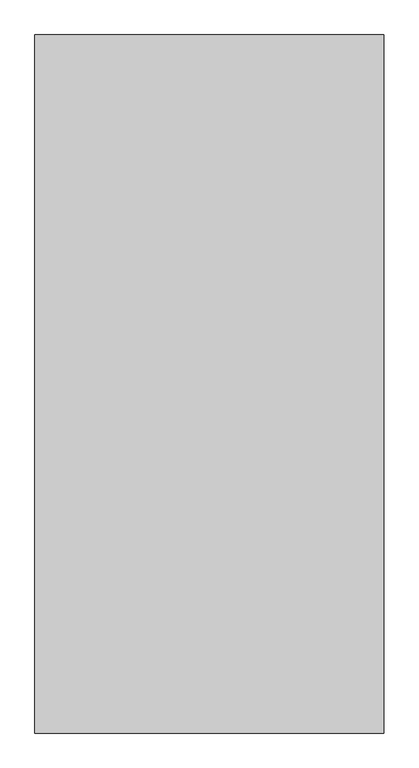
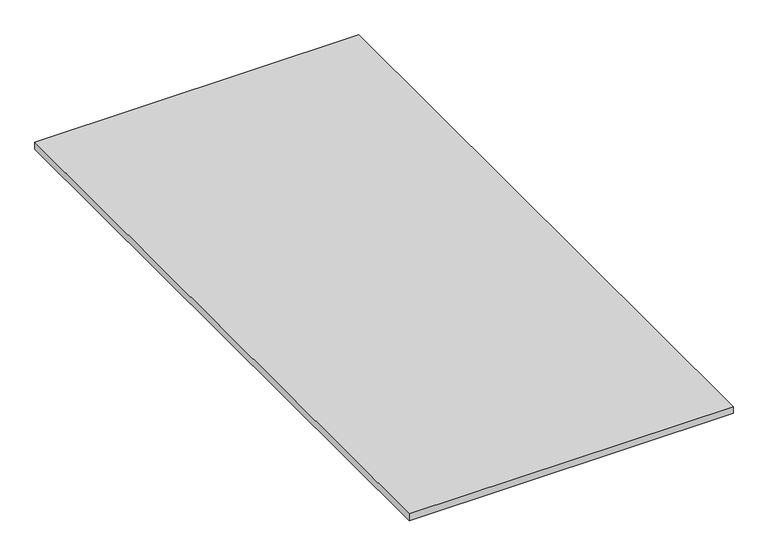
"""IFC4 building model written with IfcOpenShell, lengths in millimetres: proxy geometry, Base de duche10 : Base de duche."""

from ifc_helpers import new_model, si_unit, origin, origin_with_axes, place, context, project, spatial, polyline, outline, extrude, source, transform, mapped, element, save


def generic_models_a041baec(model_context):
    return source(origin(), model_context, "Body", "SweptSolid", [
        extrude(outline(polyline([(18966.1177171, 21855.8218682), (18966.1177171, 20055.8218682), (18066.1177171, 20055.8218682), (18066.1177171, 21855.8218682), (18966.1177171, 21855.8218682)])), origin_with_axes(), (0.0, 0.0, 1.0), 20.0),
    ])


if __name__ == "__main__":
    model = new_model("IFC4")
    model_context = context("Model", 3, world=origin())
    ifc_project = project(units=[si_unit("LENGTHUNIT", "METRE", prefix="MILLI")], contexts=[model_context])
    site = spatial("IfcSite", under=ifc_project)
    building = spatial("IfcBuilding", under=site)
    placement = place(None, origin())
    generic_models_shape = generic_models_a041baec(model_context)
    element("IfcBuildingElementProxy", 1, Name="Base de duche10 : Base de duche", ObjectType="Base de duche10 : Base de duche", at=placement, inside=building, context=model_context, shape_type="MappedRepresentation", body=[
        mapped(generic_models_shape, transform((0.0, 0.0, 0.0), x_axis=(1.0, 0.0, 0.0), y_axis=(0.0, 1.0, 0.0), z_axis=(0.0, 0.0, 1.0))),
    ])
    save(model, "model.ifc")
